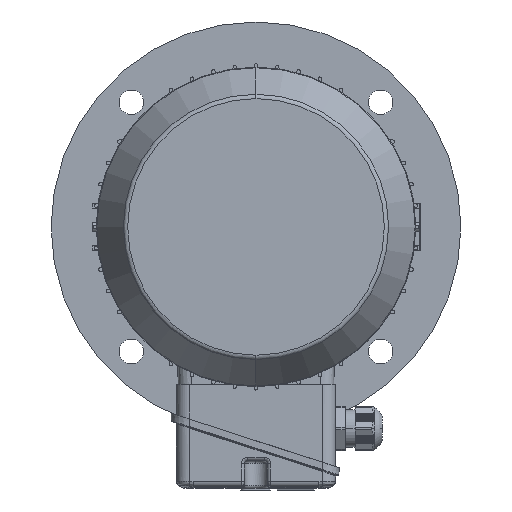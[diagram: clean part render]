
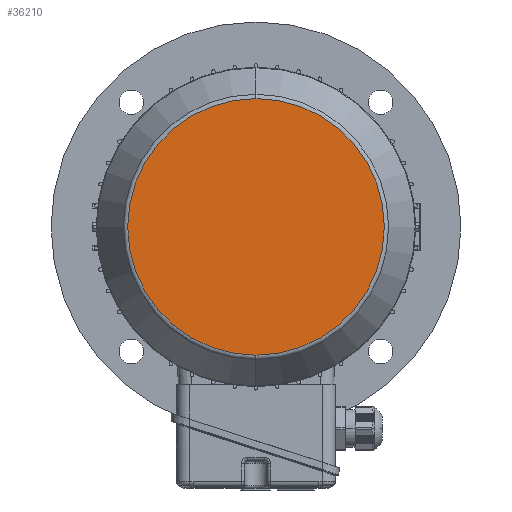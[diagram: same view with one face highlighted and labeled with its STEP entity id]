
A CAD part, left-side view. The second image highlights one B-rep face of the part: STEP entity #36210.
In plain terms, the highlighted planar face has unit normal (-1, 0, 0).
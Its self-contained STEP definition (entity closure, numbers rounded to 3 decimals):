
#1307 = AXIS2_PLACEMENT_3D ( 'NONE', #21433, #31510, #34920 ) ;
#1923 = DIRECTION ( 'NONE',  ( -1., 0., 0. ) ) ;
#2317 = FACE_OUTER_BOUND ( 'NONE', #6993, .T. ) ;
#3579 = CARTESIAN_POINT ( 'NONE',  ( -234.5, 0., -78.268 ) ) ;
#3804 = AXIS2_PLACEMENT_3D ( 'NONE', #42335, #1923, #11765 ) ;
#5286 = VERTEX_POINT ( 'NONE', #19372 ) ;
#6993 = EDGE_LOOP ( 'NONE', ( #23772, #23320 ) ) ;
#11753 = CIRCLE ( 'NONE', #1307, 78.268 ) ;
#11765 = DIRECTION ( 'NONE',  ( 0., 1., 0. ) ) ;
#11962 = DIRECTION ( 'NONE',  ( 0., 0., -1. ) ) ;
#12248 = VERTEX_POINT ( 'NONE', #3579 ) ;
#12269 = DIRECTION ( 'NONE',  ( 1., 0., 0. ) ) ;
#19372 = CARTESIAN_POINT ( 'NONE',  ( -234.5, 0., 78.268 ) ) ;
#20961 = CIRCLE ( 'NONE', #42802, 78.268 ) ;
#21433 = CARTESIAN_POINT ( 'NONE',  ( -234.5, 0., 0. ) ) ;
#22284 = EDGE_CURVE ( 'NONE', #5286, #12248, #11753, .T. ) ;
#23320 = ORIENTED_EDGE ( 'NONE', *, *, #22284, .F. ) ;
#23772 = ORIENTED_EDGE ( 'NONE', *, *, #41994, .F. ) ;
#31510 = DIRECTION ( 'NONE',  ( 1., 0., 0. ) ) ;
#32120 = CARTESIAN_POINT ( 'NONE',  ( -234.5, 0., 0. ) ) ;
#34920 = DIRECTION ( 'NONE',  ( 0., 0., -1. ) ) ;
#36210 = ADVANCED_FACE ( 'NONE', ( #2317 ), #42483, .T. ) ;
#41994 = EDGE_CURVE ( 'NONE', #12248, #5286, #20961, .T. ) ;
#42335 = CARTESIAN_POINT ( 'NONE',  ( -234.5, 0., -78.268 ) ) ;
#42483 = PLANE ( 'NONE',  #3804 ) ;
#42802 = AXIS2_PLACEMENT_3D ( 'NONE', #32120, #12269, #11962 ) ;
